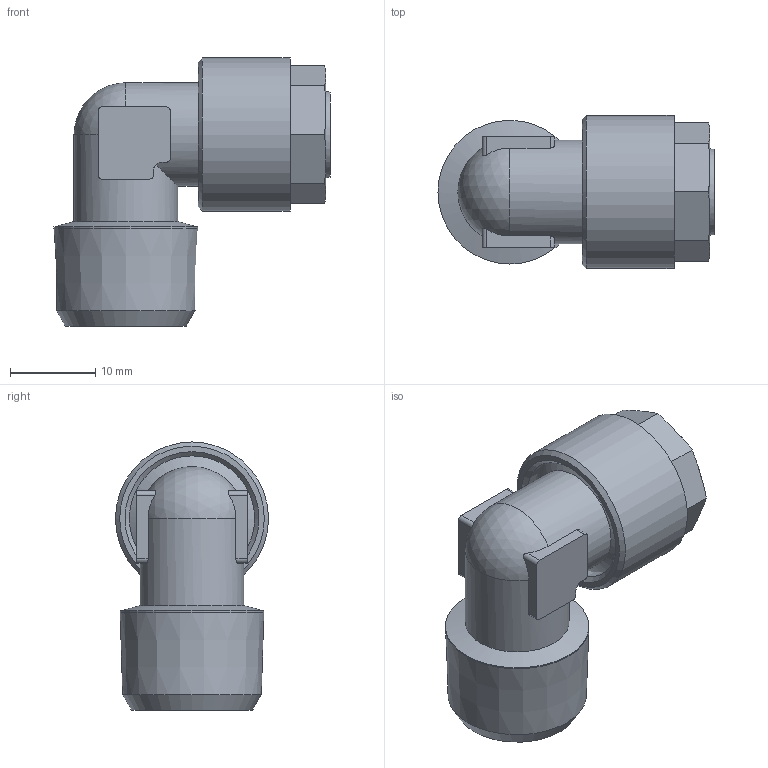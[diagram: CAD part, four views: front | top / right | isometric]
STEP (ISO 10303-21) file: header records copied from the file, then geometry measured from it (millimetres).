
FILE_DESCRIPTION(/* description */ (''),/* implementation_level */ '2;1');
FILE_NAME(/* name */ '11014_305_1210_R38_19.07.17',/* time_stamp */ '2017-07-19T08:29:29+02:00',/* author */ (''),/* organization */ (''),/* preprocessor_version */ 'ST-DEVELOPER v16.5',/* originating_system */ 'HiCAD 2016 2102.2 Build 618',/* authorisation */ '');
FILE_SCHEMA (('AUTOMOTIVE_DESIGN { 1 0 10303 214 1 1 1 1 }'));
Length unit declared in the file: millimetre
Products named in the file (3): Root; 17008; R11014
Assembly tree (2 placements, depth 2):
  Root
    17008
    R11014
Bounding box: 32.45 x 18 x 31.5 mm (x, y, z)
Volume: 5102.3 mm3; surface area: 5350.1 mm2
Topology: 2 solids, 2 shells, 81 faces, 207 edges, 133 vertices
Faces by surface type: plane 29, cylinder 26, cone 24, torus 1, sphere 1
Full cylindrical faces by diameter (mm): 8.5 x2, 10.5 x1, 11 x1, 12 x1, 12.2 x2, 14.73 x1, 16 x1, 16.893 x1, 18 x1
Entity records: 7835 total; most frequent: CARTESIAN_POINT 4273, DIRECTION 400, PRESENTATION_STYLE_ASSIGNMENT 344, COLOUR_RGB 343, DRAUGHTING_PRE_DEFINED_CURVE_FONT 342, CURVE_STYLE 342, OVER_RIDING_STYLED_ITEM 342, ORIENTED_EDGE 342
